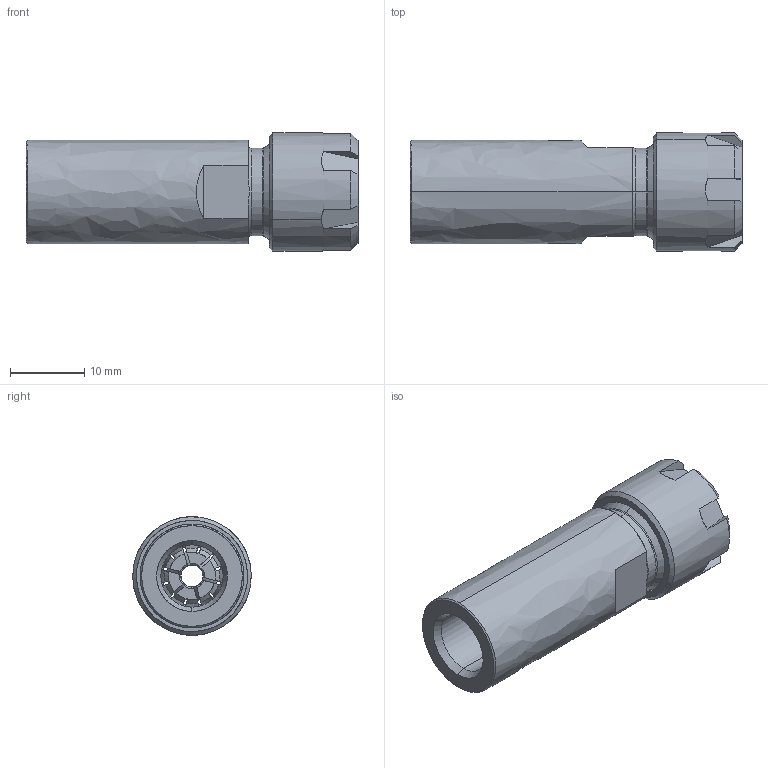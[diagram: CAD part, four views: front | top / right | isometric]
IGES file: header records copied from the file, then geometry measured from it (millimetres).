
Start section: SolidWorks IGES file using analytic representation for surfaces
Global section: file name: R:\Inventor\Kundmodeller Solidworks\Chuckar\040J000122 Collet chuck ER11 3-8-24 1-8 mm.IGS; native system: SolidWorks 2008; preprocessor: SolidWorks 2008; author: Johan; date: 090903.152500; units: millimetre
Bounding box: 44.81 x 15.99 x 16 mm (x, y, z)
Surface area: 6251.4 mm2 (no closed solid volume)
Topology: 0 solids, 0 shells, 197 faces, 1686 edges, 1686 vertices
Faces by surface type: revolution 104, bspline 93
